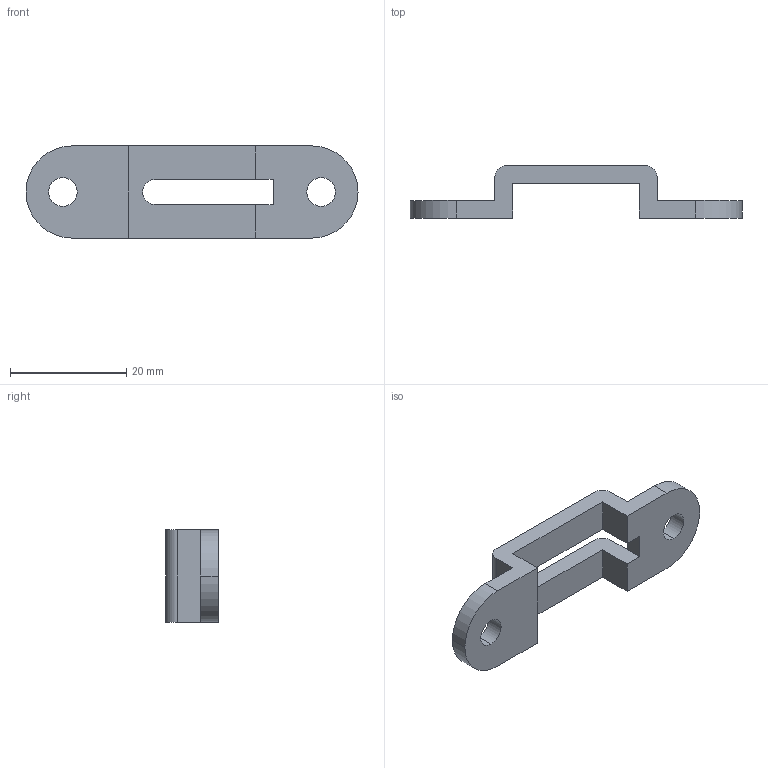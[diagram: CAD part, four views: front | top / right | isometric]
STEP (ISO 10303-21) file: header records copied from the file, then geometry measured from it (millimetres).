
FILE_DESCRIPTION (( 'STEP AP214' ), '1' );
FILE_NAME ('6063_V01_REFERENCE_BLOCK_NON-LOCKING_SINGLE_CLIP.STEP', '2025-04-16T15:29:48', ( '' ), ( '' ), 'SwSTEP 2.0', 'SolidWorks 2025', '' );
FILE_SCHEMA (( 'AUTOMOTIVE_DESIGN' ));
Length unit declared in the file: inch
Products named in the file (1): 6063_V01_REFERENCE_BLOCK_NON-LOCKING_SINGLE_CLIP
Bounding box: 57.15 x 9.04 x 15.88 mm (x, y, z)
Volume: 2671.4 mm3; surface area: 2504.9 mm2
Topology: 1 solids, 1 shells, 29 faces, 85 edges, 56 vertices
Faces by surface type: plane 17, cylinder 12
Entity records: 1006 total; most frequent: CARTESIAN_POINT 171, ORIENTED_EDGE 170, DIRECTION 169, EDGE_CURVE 85, VECTOR 61, LINE 61, VERTEX_POINT 56, AXIS2_PLACEMENT_3D 54
